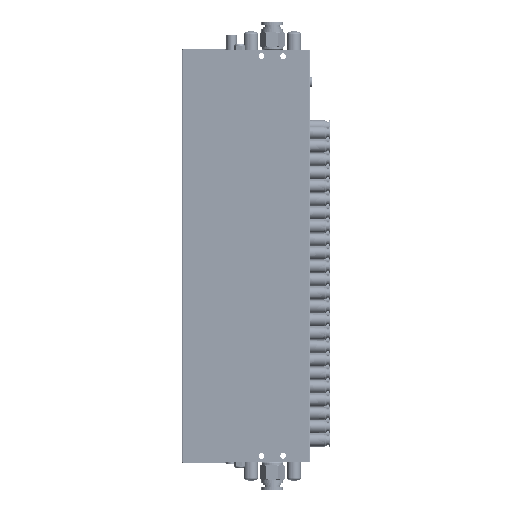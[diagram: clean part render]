
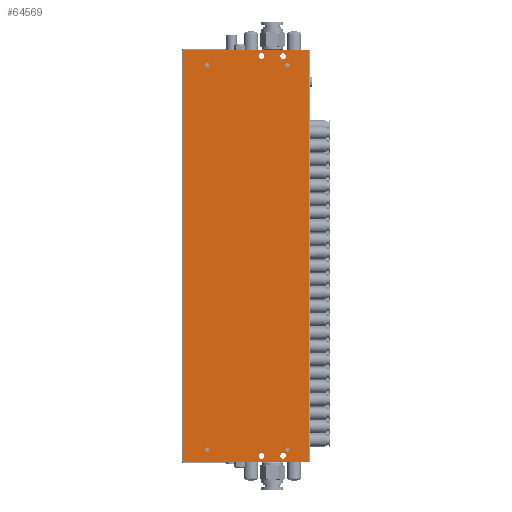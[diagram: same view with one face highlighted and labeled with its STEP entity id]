
A CAD part, front view. The second image highlights one B-rep face of the part: STEP entity #64569.
In plain terms, the highlighted planar face has unit normal (0, -1, 0).
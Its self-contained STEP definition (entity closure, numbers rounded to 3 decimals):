
#49473=FACE_BOUND('',#87323,.T.);
#49474=FACE_BOUND('',#87324,.T.);
#49475=FACE_BOUND('',#87325,.T.);
#49476=FACE_BOUND('',#87326,.T.);
#49477=FACE_BOUND('',#87327,.T.);
#49478=FACE_BOUND('',#87328,.T.);
#49479=FACE_BOUND('',#87329,.T.);
#49480=FACE_BOUND('',#87330,.T.);
#49481=FACE_BOUND('',#87331,.T.);
#54832=CIRCLE('',#210911,1.65);
#54833=CIRCLE('',#210913,1.65);
#54835=CIRCLE('',#210916,2.25);
#54836=CIRCLE('',#210918,2.25);
#54966=CIRCLE('',#211083,2.25);
#54967=CIRCLE('',#211084,2.25);
#54968=CIRCLE('',#211085,1.65);
#54969=CIRCLE('',#211086,1.65);
#64569=ADVANCED_FACE('',(#49473,#49474,#49475,#49476,#49477,#49478,#49479,
#49480,#49481),#73500,.T.);
#73500=PLANE('',#211087);
#87323=EDGE_LOOP('',(#106402,#106403,#106404,#106405));
#87324=EDGE_LOOP('',(#106406));
#87325=EDGE_LOOP('',(#106407));
#87326=EDGE_LOOP('',(#106408));
#87327=EDGE_LOOP('',(#106409));
#87328=EDGE_LOOP('',(#106410));
#87329=EDGE_LOOP('',(#106411));
#87330=EDGE_LOOP('',(#106412));
#87331=EDGE_LOOP('',(#106413));
#106402=ORIENTED_EDGE('',*,*,#161161,.T.);
#106403=ORIENTED_EDGE('',*,*,#161162,.T.);
#106404=ORIENTED_EDGE('',*,*,#161163,.T.);
#106405=ORIENTED_EDGE('',*,*,#161154,.F.);
#106406=ORIENTED_EDGE('',*,*,#160856,.F.);
#106407=ORIENTED_EDGE('',*,*,#160855,.F.);
#106408=ORIENTED_EDGE('',*,*,#160853,.F.);
#106409=ORIENTED_EDGE('',*,*,#160852,.T.);
#106410=ORIENTED_EDGE('',*,*,#161164,.F.);
#106411=ORIENTED_EDGE('',*,*,#161165,.F.);
#106412=ORIENTED_EDGE('',*,*,#161166,.F.);
#106413=ORIENTED_EDGE('',*,*,#161167,.T.);
#144893=VERTEX_POINT('',#292090);
#144894=VERTEX_POINT('',#292093);
#144896=VERTEX_POINT('',#292098);
#144897=VERTEX_POINT('',#292101);
#145164=VERTEX_POINT('',#294275);
#145165=VERTEX_POINT('',#294276);
#145170=VERTEX_POINT('',#294289);
#145171=VERTEX_POINT('',#294291);
#145172=VERTEX_POINT('',#294294);
#145173=VERTEX_POINT('',#294296);
#145174=VERTEX_POINT('',#294298);
#145175=VERTEX_POINT('',#294300);
#160852=EDGE_CURVE('',#144893,#144893,#54832,.T.);
#160853=EDGE_CURVE('',#144894,#144894,#54833,.T.);
#160855=EDGE_CURVE('',#144896,#144896,#54835,.T.);
#160856=EDGE_CURVE('',#144897,#144897,#54836,.T.);
#161154=EDGE_CURVE('',#145164,#145165,#181112,.T.);
#161161=EDGE_CURVE('',#145164,#145170,#181115,.T.);
#161162=EDGE_CURVE('',#145170,#145171,#181116,.T.);
#161163=EDGE_CURVE('',#145171,#145165,#181117,.T.);
#161164=EDGE_CURVE('',#145172,#145172,#54966,.T.);
#161165=EDGE_CURVE('',#145173,#145173,#54967,.T.);
#161166=EDGE_CURVE('',#145174,#145174,#54968,.T.);
#161167=EDGE_CURVE('',#145175,#145175,#54969,.T.);
#181112=LINE('',#294274,#191992);
#181115=LINE('',#294288,#191995);
#181116=LINE('',#294290,#191996);
#181117=LINE('',#294292,#191997);
#191992=VECTOR('',#236586,1.);
#191995=VECTOR('',#236599,1.);
#191996=VECTOR('',#236600,1.);
#191997=VECTOR('',#236601,1.);
#210911=AXIS2_PLACEMENT_3D('',#292089,#236105,#236106);
#210913=AXIS2_PLACEMENT_3D('',#292092,#236109,#236110);
#210916=AXIS2_PLACEMENT_3D('',#292097,#236115,#236116);
#210918=AXIS2_PLACEMENT_3D('',#292100,#236119,#236120);
#211083=AXIS2_PLACEMENT_3D('',#294293,#236602,#236603);
#211084=AXIS2_PLACEMENT_3D('',#294295,#236604,#236605);
#211085=AXIS2_PLACEMENT_3D('',#294297,#236606,#236607);
#211086=AXIS2_PLACEMENT_3D('',#294299,#236608,#236609);
#211087=AXIS2_PLACEMENT_3D('',#294301,#236610,#236611);
#236105=DIRECTION('',(0.,1.,0.));
#236106=DIRECTION('',(0.,0.,-1.));
#236109=DIRECTION('',(0.,-1.,0.));
#236110=DIRECTION('',(0.,0.,-1.));
#236115=DIRECTION('',(0.,-1.,0.));
#236116=DIRECTION('',(0.,0.,-1.));
#236119=DIRECTION('',(0.,-1.,0.));
#236120=DIRECTION('',(0.,0.,-1.));
#236586=DIRECTION('',(1.,0.,0.));
#236599=DIRECTION('',(0.,0.,-1.));
#236600=DIRECTION('',(1.,0.,0.));
#236601=DIRECTION('',(0.,0.,1.));
#236602=DIRECTION('',(0.,-1.,0.));
#236603=DIRECTION('',(0.,0.,-1.));
#236604=DIRECTION('',(0.,-1.,0.));
#236605=DIRECTION('',(0.,0.,-1.));
#236606=DIRECTION('',(0.,-1.,0.));
#236607=DIRECTION('',(0.,0.,-1.));
#236608=DIRECTION('',(0.,1.,0.));
#236609=DIRECTION('',(0.,0.,-1.));
#236610=DIRECTION('',(0.,-1.,0.));
#236611=DIRECTION('',(0.,0.,-1.));
#292089=CARTESIAN_POINT('',(-31.5,-23.,60.));
#292090=CARTESIAN_POINT('',(-31.5,-23.,58.35));
#292092=CARTESIAN_POINT('',(31.5,-23.,60.));
#292093=CARTESIAN_POINT('',(31.5,-23.,58.35));
#292097=CARTESIAN_POINT('',(11.,-23.,67.));
#292098=CARTESIAN_POINT('',(11.,-23.,64.75));
#292100=CARTESIAN_POINT('',(28.,-23.,67.));
#292101=CARTESIAN_POINT('',(28.,-23.,64.75));
#294274=CARTESIAN_POINT('',(52.5,-23.,72.));
#294275=CARTESIAN_POINT('',(-50.5,-23.,72.));
#294276=CARTESIAN_POINT('',(48.5,-23.,72.));
#294288=CARTESIAN_POINT('',(-50.5,-23.,-39.));
#294289=CARTESIAN_POINT('',(-50.5,-23.,-252.));
#294290=CARTESIAN_POINT('',(52.5,-23.,-252.));
#294291=CARTESIAN_POINT('',(48.5,-23.,-252.));
#294292=CARTESIAN_POINT('',(48.5,-23.,72.));
#294293=CARTESIAN_POINT('',(28.,-23.,-247.));
#294294=CARTESIAN_POINT('',(28.,-23.,-249.25));
#294295=CARTESIAN_POINT('',(11.,-23.,-247.));
#294296=CARTESIAN_POINT('',(11.,-23.,-249.25));
#294297=CARTESIAN_POINT('',(31.5,-23.,-242.));
#294298=CARTESIAN_POINT('',(31.5,-23.,-243.65));
#294299=CARTESIAN_POINT('',(-31.5,-23.,-242.));
#294300=CARTESIAN_POINT('',(-31.5,-23.,-243.65));
#294301=CARTESIAN_POINT('',(-52.5,-23.,-39.));
